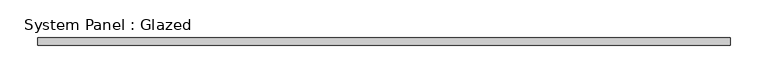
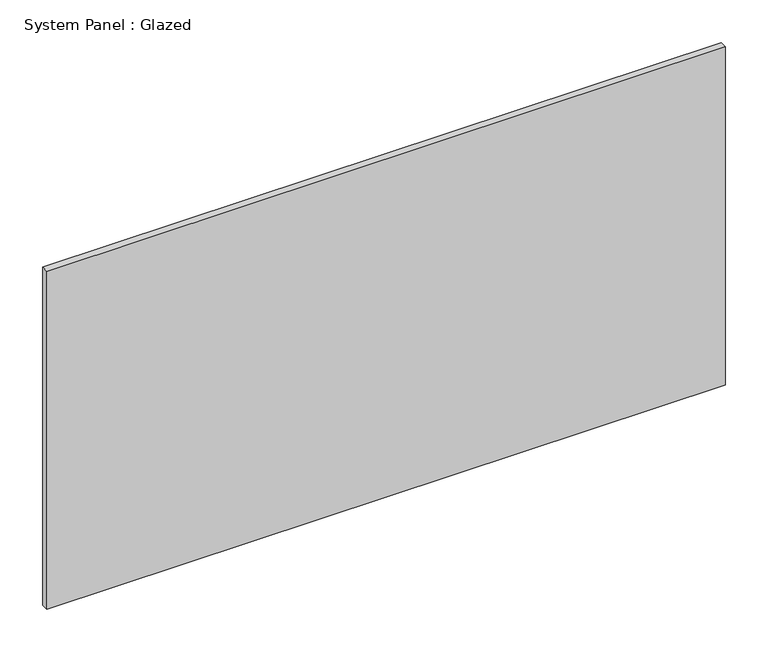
"""IFC4 building model written with IfcOpenShell, lengths in millimetres: plate geometry, System Panel : Glazed."""

import ifcopenshell
import ifcopenshell.guid

model = None  # the IFC model being written
_history = None  # IfcOwnerHistory: only IFC2X3 demands one
_inside = {}  # id of a spatial element -> (the spatial element, [elements in it])
_under = {}  # id of a project, library or spatial element -> (it, [spatial elements below it])
_declared = {}  # id of a project -> (the project, [libraries it declares])
_typed = {}  # id of a type object -> (the type object, [elements of that type])
_made_of = {}  # id of a material, layer set ... -> (it, [elements and type objects made of it])


def new_model(schema):
    """Start an empty IFC model of exactly this schema.

    Asked for "IFC4X3", IfcOpenShell would pick the latest addendum, in which some entities
    have other attributes; the version numbers below select the first issue.
    IFC2X3 requires an IfcOwnerHistory on every rooted entity: one is made here for all.
    """
    global model, _history
    if schema == "IFC4X3":
        model = ifcopenshell.file(schema_version=(4, 3, 0, 0))
    else:
        model = ifcopenshell.file(schema=schema)
    _inside.clear()
    _under.clear()
    _declared.clear()
    _typed.clear()
    _made_of.clear()
    _history = None
    if model.schema == "IFC2X3":
        org = make("IfcOrganization", Name="unknown")
        user = make(
            "IfcPersonAndOrganization",
            ThePerson=make("IfcPerson", FamilyName="unknown"),
            TheOrganization=org,
        )
        app = make(
            "IfcApplication",
            ApplicationDeveloper=org,
            Version="unknown",
            ApplicationFullName="unknown",
            ApplicationIdentifier="unknown",
        )
        _history = make(
            "IfcOwnerHistory",
            OwningUser=user,
            OwningApplication=app,
            ChangeAction="ADDED",
            CreationDate=0,
        )
    return model


def make(cls, **values):
    """One entity of the class cls with the attributes given. An attribute that is None is left unset."""
    return model.create_entity(
        cls, **{name: value for name, value in values.items() if value is not None}
    )


def rooted(cls, **values):
    """An entity with a GlobalId (a new one), such as an element, a storey or a relation."""
    return make(cls, GlobalId=ifcopenshell.guid.new(), OwnerHistory=_history, **values)


def si_unit(unit_type, name, prefix=None):
    """IfcSIUnit, for example si_unit("LENGTHUNIT", "METRE", prefix="MILLI")."""
    return make("IfcSIUnit", UnitType=unit_type, Prefix=prefix, Name=name)


def assignment(units):
    """IfcUnitAssignment: the units of a project."""
    return None if units is None else make("IfcUnitAssignment", Units=units)


def point(xyz):
    """IfcCartesianPoint."""
    return None if xyz is None else make("IfcCartesianPoint", Coordinates=xyz)


def direction(xyz):
    """IfcDirection."""
    return None if xyz is None else make("IfcDirection", DirectionRatios=xyz)


def frame(location, z_axis=None, x_axis=None):
    """IfcAxis2Placement3D, a coordinate frame: its origin and axes. An axis left out is left unset."""
    return make(
        "IfcAxis2Placement3D",
        Location=point(location),
        Axis=direction(z_axis),
        RefDirection=direction(x_axis),
    )


def origin():
    """The frame at (0, 0, 0) with its axes left unset."""
    return frame((0.0, 0.0, 0.0))


def origin_with_axes():
    """The frame at (0, 0, 0) with the z axis (0, 0, 1) and the x axis (1, 0, 0) written out."""
    return frame((0.0, 0.0, 0.0), z_axis=(0.0, 0.0, 1.0), x_axis=(1.0, 0.0, 0.0))


def place(relative_to, where):
    """IfcLocalPlacement: puts the frame where relative to a parent placement (None: the world)."""
    return make(
        "IfcLocalPlacement", PlacementRelTo=relative_to, RelativePlacement=where
    )


def context(
    kind, dimensions, precision=None, world=None, true_north=None, identifier=None
):
    """IfcGeometricRepresentationContext, for example the 3D "Model" context."""
    return make(
        "IfcGeometricRepresentationContext",
        ContextIdentifier=identifier,
        ContextType=kind,
        CoordinateSpaceDimension=dimensions,
        Precision=precision,
        WorldCoordinateSystem=world,
        TrueNorth=true_north,
    )


def project(units=None, contexts=None):
    """IfcProject with its units and contexts."""
    return rooted(
        "IfcProject",
        Name="project",
        RepresentationContexts=contexts,
        UnitsInContext=assignment(units),
    )


def spatial(cls, under=None, at=None, **own):
    """A site, building, storey or space (cls), placed at a placement, below another one or the project."""
    s = rooted(cls, ObjectPlacement=at, **own)
    if under is not None:
        _under.setdefault(under.id(), (under, []))[1].append(s)
    return s


def polyline(points):
    """IfcPolyline through the points."""
    return make("IfcPolyline", Points=[point(p) for p in points])


def outline(outer, holes=None, kind="AREA"):
    """IfcArbitraryClosedProfileDef: a profile drawn as a closed curve; with holes, ...WithVoids."""
    if holes is None:
        return make("IfcArbitraryClosedProfileDef", ProfileType=kind, OuterCurve=outer)
    return make(
        "IfcArbitraryProfileDefWithVoids",
        ProfileType=kind,
        OuterCurve=outer,
        InnerCurves=holes,
    )


def extrude(swept, where, along, depth):
    """IfcExtrudedAreaSolid: the profile swept, set in the frame where, extruded along a direction by depth."""
    return make(
        "IfcExtrudedAreaSolid",
        SweptArea=swept,
        Position=where,
        ExtrudedDirection=direction(along),
        Depth=depth,
    )


def shape(context_of_items, identifier, shape_type, items):
    """IfcShapeRepresentation: the items that make up one representation, for example the "Body"."""
    return make(
        "IfcShapeRepresentation",
        ContextOfItems=context_of_items,
        RepresentationIdentifier=identifier,
        RepresentationType=shape_type,
        Items=items,
    )


def source(mapping_origin, context_of_items, identifier, shape_type, items):
    """IfcRepresentationMap: a shape defined once, which mapped items show again and again."""
    return make(
        "IfcRepresentationMap",
        MappingOrigin=mapping_origin,
        MappedRepresentation=shape(context_of_items, identifier, shape_type, items),
    )


def transform(
    local_origin,
    x_axis=None,
    y_axis=None,
    z_axis=None,
    scale=None,
    scale2=None,
    scale3=None,
    uniform=True,
):
    """IfcCartesianTransformationOperator3D, or its non-uniform kind. x_axis, y_axis, z_axis: its Axis1, 2, 3."""
    if uniform:
        return make(
            "IfcCartesianTransformationOperator3D",
            Axis1=direction(x_axis),
            Axis2=direction(y_axis),
            LocalOrigin=point(local_origin),
            Scale=scale,
            Axis3=direction(z_axis),
        )
    return make(
        "IfcCartesianTransformationOperator3DnonUniform",
        Axis1=direction(x_axis),
        Axis2=direction(y_axis),
        LocalOrigin=point(local_origin),
        Scale=scale,
        Axis3=direction(z_axis),
        Scale2=scale2,
        Scale3=scale3,
    )


def mapped(mapping_source, mapping_target):
    """IfcMappedItem: shows the shape of a source again, moved by a transform."""
    return make(
        "IfcMappedItem", MappingSource=mapping_source, MappingTarget=mapping_target
    )


def made_of(thing, what):
    """Note that an element or type object is made of a material, layer set ...; save() writes the relation."""
    if what is not None:
        _made_of.setdefault(what.id(), (what, []))[1].append(thing)
    return thing


def element(
    cls,
    number,
    at=None,
    inside=None,
    cuts=None,
    type_object=None,
    material=None,
    context=None,
    identifier="Body",
    shape_type=None,
    held_by="IfcProductDefinitionShape",
    body=None,
    shapes=None,
    **own,
):
    """One element of the class cls, such as IfcWall. Its Tag is "e" and its number.

    at: its placement. inside: the storey or other place that contains it. cuts: it is an
    opening in that element (IfcRelVoidsElement). A single representation is given by context,
    identifier, shape_type and body (its items); several are given by shapes. held_by: the class
    of the entity that holds the representations. save() writes the other relations.
    """
    e = rooted(cls, Tag="e%d" % number, ObjectPlacement=at, **own)
    if body is not None:
        shapes = [shape(context, identifier, shape_type, body)]
    if shapes is not None:
        e.Representation = make(held_by, Representations=shapes)
    if inside is not None:
        _inside.setdefault(inside.id(), (inside, []))[1].append(e)
    if cuts is not None:
        rooted(
            "IfcRelVoidsElement", RelatingBuildingElement=cuts, RelatedOpeningElement=e
        )
    if type_object is not None:
        _typed.setdefault(type_object.id(), (type_object, []))[1].append(e)
    return made_of(e, material)


def aggregate(whole, parts):
    """IfcRelAggregates: a whole, such as a stair, and the parts it consists of."""
    return rooted("IfcRelAggregates", RelatingObject=whole, RelatedObjects=parts)


def save(model, path):
    """Write the relations noted so far, then the file.

    IfcRelAggregates (storeys below a building ...), IfcRelContainedInSpatialStructure (elements
    in a storey), IfcRelDefinesByType, IfcRelAssociatesMaterial and IfcRelDeclares: one each for
    every whole, place, type object, material and project.
    """
    for whole, parts in _under.values():
        aggregate(whole, parts)
    for where, things in _inside.values():
        rooted(
            "IfcRelContainedInSpatialStructure",
            RelatedElements=things,
            RelatingStructure=where,
        )
    for kind, things in _typed.values():
        rooted("IfcRelDefinesByType", RelatedObjects=things, RelatingType=kind)
    for what, things in _made_of.values():
        rooted("IfcRelAssociatesMaterial", RelatedObjects=things, RelatingMaterial=what)
    for by, libraries in _declared.values():
        rooted("IfcRelDeclares", RelatingContext=by, RelatedDefinitions=libraries)
    model.write(path)


def system_panel_glazed_917149f2(model_context):
    return source(origin(), model_context, "Body", "SweptSolid", [
        extrude(outline(polyline([(460.0715535, -5.0), (-460.0715535, -5.0), (-460.0715535, 5.0), (460.0715535, 5.0), (460.0715535, -5.0)])), origin_with_axes(), (0.0, 0.0, 1.0), 485.0),
    ])


if __name__ == "__main__":
    model = new_model("IFC4")
    model_context = context("Model", 3, world=origin())
    ifc_project = project(units=[si_unit("LENGTHUNIT", "METRE", prefix="MILLI")], contexts=[model_context])
    site = spatial("IfcSite", under=ifc_project)
    building = spatial("IfcBuilding", under=site)
    placement = place(None, origin())
    system_panel_glazed_shape = system_panel_glazed_917149f2(model_context)
    element("IfcPlate", 1, ObjectType="System Panel : Glazed", at=placement, inside=building, context=model_context, shape_type="MappedRepresentation", body=[
        mapped(system_panel_glazed_shape, transform((0.0, 0.0, 0.0), x_axis=(1.0, 0.0, 0.0), y_axis=(0.0, 1.0, 0.0), z_axis=(0.0, 0.0, 1.0))),
    ])
    save(model, "model.ifc")
